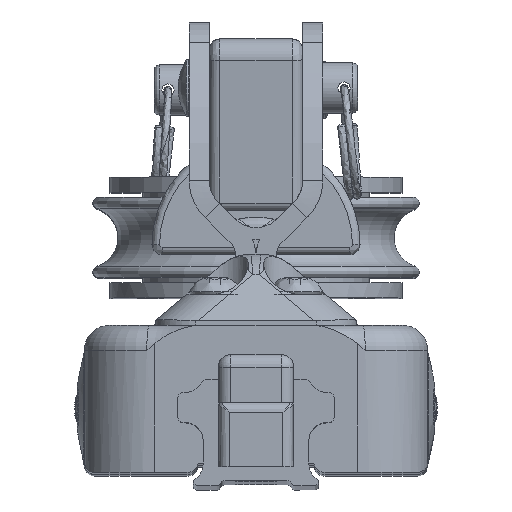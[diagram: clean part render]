
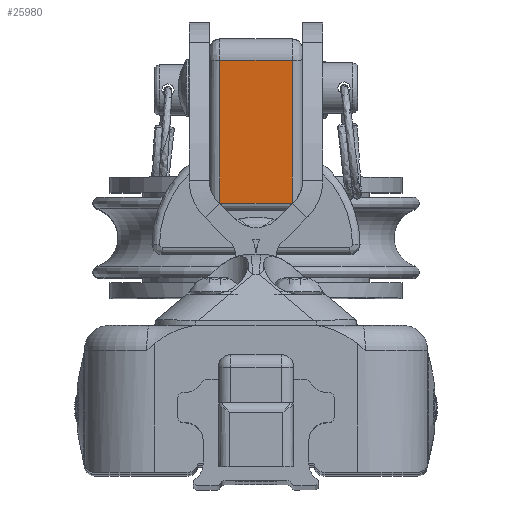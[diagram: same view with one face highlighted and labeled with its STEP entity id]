
A CAD part, top view. The second image highlights one B-rep face of the part: STEP entity #25980.
In plain terms, the highlighted planar face has unit normal (0, -0.067, 0.998).
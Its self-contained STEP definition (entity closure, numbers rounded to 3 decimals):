
#1096=PLANE('',#28656);
#2374=LINE('',#52637,#3897);
#2431=LINE('',#53789,#3954);
#2432=LINE('',#53793,#3955);
#2433=LINE('',#53794,#3956);
#3897=VECTOR('',#34710,10.);
#3954=VECTOR('',#35105,10.);
#3955=VECTOR('',#35110,10.);
#3956=VECTOR('',#35111,10.);
#5918=FACE_OUTER_BOUND('',#7488,.T.);
#7488=EDGE_LOOP('',(#22998,#22999,#23000,#23001));
#12113=VERTEX_POINT('',#52629);
#12115=VERTEX_POINT('',#52635);
#12219=VERTEX_POINT('',#53788);
#12220=VERTEX_POINT('',#53792);
#15731=EDGE_CURVE('',#12115,#12113,#2374,.T.);
#15928=EDGE_CURVE('',#12219,#12113,#2431,.T.);
#15930=EDGE_CURVE('',#12115,#12220,#2432,.T.);
#15931=EDGE_CURVE('',#12219,#12220,#2433,.T.);
#22998=ORIENTED_EDGE('',*,*,#15731,.F.);
#22999=ORIENTED_EDGE('',*,*,#15930,.T.);
#23000=ORIENTED_EDGE('',*,*,#15931,.F.);
#23001=ORIENTED_EDGE('',*,*,#15928,.T.);
#25980=ADVANCED_FACE('',(#5918),#1096,.T.);
#28656=AXIS2_PLACEMENT_3D('',#53791,#35108,#35109);
#34710=DIRECTION('',(0.,-0.998,-0.067));
#35105=DIRECTION('',(1.,0.,0.));
#35108=DIRECTION('center_axis',(0.,-0.067,
0.998));
#35109=DIRECTION('ref_axis',(0.,-0.998,-0.067));
#35110=DIRECTION('',(-1.,0.,0.));
#35111=DIRECTION('',(0.,0.998,0.067));
#52629=CARTESIAN_POINT('',(7.2,56.273,140.594));
#52635=CARTESIAN_POINT('',(7.2,84.606,142.491));
#52637=CARTESIAN_POINT('',(7.2,76.875,141.973));
#53788=CARTESIAN_POINT('',(-7.2,56.273,140.594));
#53789=CARTESIAN_POINT('',(0.,56.273,140.594));
#53791=CARTESIAN_POINT('Origin',(0.,84.606,
142.491));
#53792=CARTESIAN_POINT('',(-7.2,84.606,142.491));
#53793=CARTESIAN_POINT('',(0.,84.606,142.491));
#53794=CARTESIAN_POINT('',(-7.2,76.875,141.973));
